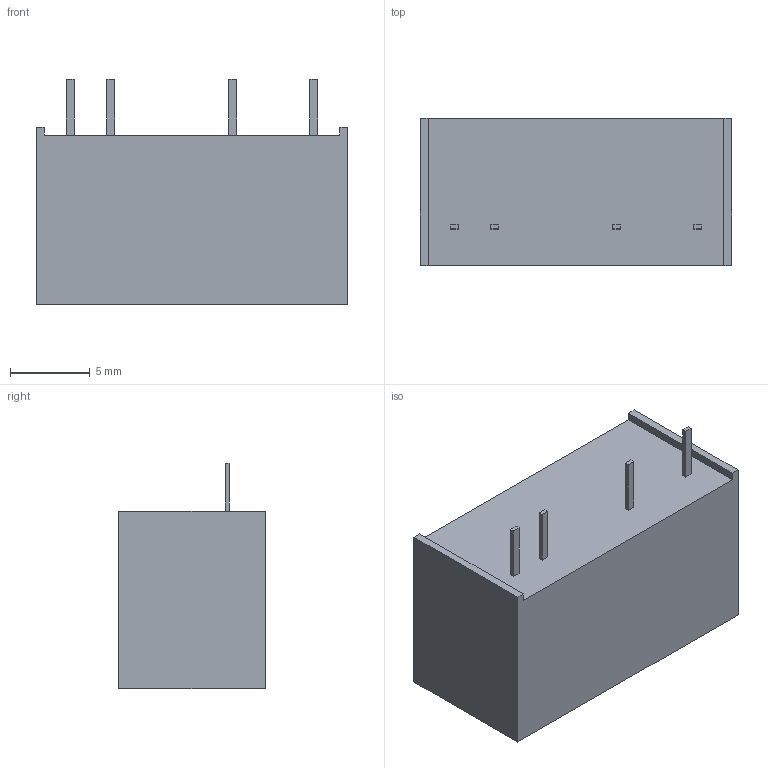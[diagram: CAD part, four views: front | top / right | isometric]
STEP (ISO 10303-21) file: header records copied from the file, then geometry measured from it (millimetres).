
FILE_DESCRIPTION(/* description */ ('Unknown'),/* implementation_level */ '2;1');
FILE_NAME(/* name */ 'IMA01(S)',/* time_stamp */ '2017-11-28T16:40:11+08:00',/* author */ ('Unknown'),/* organization */ ('Unknown'),/* preprocessor_version */ 'ST-DEVELOPER v16.7',/* originating_system */ 'DEX',/* authorisation */ $);
FILE_SCHEMA (('AUTOMOTIVE_DESIGN {1 0 10303 214 3 1 1}'));
Length unit declared in the file: millimetre
Products named in the file (1): IMA01(S)
Bounding box: 19.5 x 9.2 x 14.1 mm (x, y, z)
Volume: 1908 mm3; surface area: 1007.6 mm2
Topology: 1 solids, 1 shells, 30 faces, 72 edges, 48 vertices
Faces by surface type: plane 30
Entity records: 886 total; most frequent: CARTESIAN_POINT 151, ORIENTED_EDGE 144, DIRECTION 134, EDGE_CURVE 72, LINE 72, VECTOR 72, VERTEX_POINT 48, EDGE_LOOP 34
